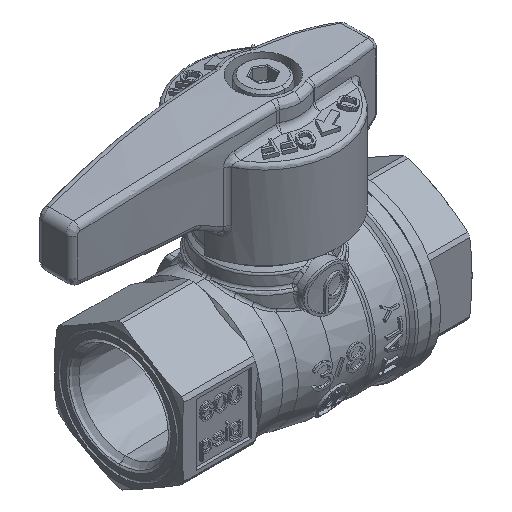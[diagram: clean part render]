
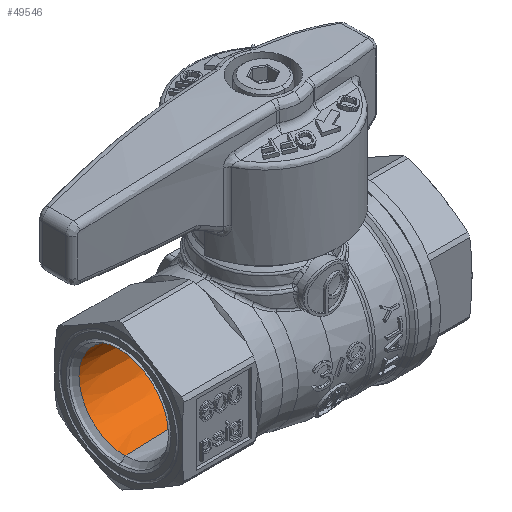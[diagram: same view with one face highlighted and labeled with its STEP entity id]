
A CAD part, isometric view. The second image highlights one B-rep face of the part: STEP entity #49546.
In plain terms, the highlighted conical face has half-angle 1.843 degrees and reference radius 0.287 mm.
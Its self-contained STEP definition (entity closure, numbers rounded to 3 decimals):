
#49371 = CONICAL_SURFACE('',#49372,0.258,1.309);
#49372 = AXIS2_PLACEMENT_3D('',#49373,#49374,#49375);
#49373 = CARTESIAN_POINT('',(22.243,-0.408,-10.35));
#49374 = DIRECTION('',(-1.,0.,0.));
#49375 = DIRECTION('',(0.,0.,1.));
#49441 = VERTEX_POINT('',#49442);
#49442 = CARTESIAN_POINT('',(22.237,-0.408,-10.63));
#49465 = VERTEX_POINT('',#49466);
#49466 = CARTESIAN_POINT('',(22.237,-0.408,-10.07));
#49502 = CONICAL_SURFACE('',#49503,0.287,0.032);
#49503 = AXIS2_PLACEMENT_3D('',#49504,#49505,#49506);
#49504 = CARTESIAN_POINT('',(22.011,-0.408,-10.35));
#49505 = DIRECTION('',(-1.,0.,0.));
#49506 = DIRECTION('',(0.,0.,1.));
#49519 = EDGE_CURVE('',#49441,#49465,#49520,.T.);
#49520 = SURFACE_CURVE('',#49521,(#49526,#49533),.PCURVE_S1.);
#49521 = CIRCLE('',#49522,0.28);
#49522 = AXIS2_PLACEMENT_3D('',#49523,#49524,#49525);
#49523 = CARTESIAN_POINT('',(22.237,-0.408,-10.35));
#49524 = DIRECTION('',(1.,0.,0.));
#49525 = DIRECTION('',(0.,0.,-1.));
#49526 = PCURVE('',#49371,#49527);
#49527 = DEFINITIONAL_REPRESENTATION('',(#49528),#49532);
#49528 = LINE('',#49529,#49530);
#49529 = CARTESIAN_POINT('',(3.142,0.006));
#49530 = VECTOR('',#49531,1.);
#49531 = DIRECTION('',(-1.,0.));
#49532 = ( GEOMETRIC_REPRESENTATION_CONTEXT(2) 
PARAMETRIC_REPRESENTATION_CONTEXT() REPRESENTATION_CONTEXT('2D SPACE',''
  ) );
#49533 = PCURVE('',#49534,#49539);
#49534 = CONICAL_SURFACE('',#49535,0.287,0.032);
#49535 = AXIS2_PLACEMENT_3D('',#49536,#49537,#49538);
#49536 = CARTESIAN_POINT('',(22.011,-0.408,-10.35));
#49537 = DIRECTION('',(-1.,0.,0.));
#49538 = DIRECTION('',(0.,0.,1.));
#49539 = DEFINITIONAL_REPRESENTATION('',(#49540),#49544);
#49540 = LINE('',#49541,#49542);
#49541 = CARTESIAN_POINT('',(3.142,-0.226));
#49542 = VECTOR('',#49543,1.);
#49543 = DIRECTION('',(-1.,0.));
#49544 = ( GEOMETRIC_REPRESENTATION_CONTEXT(2) 
PARAMETRIC_REPRESENTATION_CONTEXT() REPRESENTATION_CONTEXT('2D SPACE',''
  ) );
#49546 = ADVANCED_FACE('',(#49547),#49534,.F.);
#49547 = FACE_BOUND('',#49548,.T.);
#49548 = EDGE_LOOP('',(#49549,#49550,#49573,#49602));
#49549 = ORIENTED_EDGE('',*,*,#49519,.T.);
#49550 = ORIENTED_EDGE('',*,*,#49551,.F.);
#49551 = EDGE_CURVE('',#49552,#49465,#49554,.T.);
#49552 = VERTEX_POINT('',#49553);
#49553 = CARTESIAN_POINT('',(21.785,-0.408,-10.055));
#49554 = SURFACE_CURVE('',#49555,(#49559,#49566),.PCURVE_S1.);
#49555 = LINE('',#49556,#49557);
#49556 = CARTESIAN_POINT('',(21.785,-0.408,-10.055));
#49557 = VECTOR('',#49558,1.);
#49558 = DIRECTION('',(0.999,0.,-0.032));
#49559 = PCURVE('',#49534,#49560);
#49560 = DEFINITIONAL_REPRESENTATION('',(#49561),#49565);
#49561 = LINE('',#49562,#49563);
#49562 = CARTESIAN_POINT('',(0.,0.226));
#49563 = VECTOR('',#49564,1.);
#49564 = DIRECTION('',(0.,-1.));
#49565 = ( GEOMETRIC_REPRESENTATION_CONTEXT(2) 
PARAMETRIC_REPRESENTATION_CONTEXT() REPRESENTATION_CONTEXT('2D SPACE',''
  ) );
#49566 = PCURVE('',#49502,#49567);
#49567 = DEFINITIONAL_REPRESENTATION('',(#49568),#49572);
#49568 = LINE('',#49569,#49570);
#49569 = CARTESIAN_POINT('',(6.283,0.226));
#49570 = VECTOR('',#49571,1.);
#49571 = DIRECTION('',(0.,-1.));
#49572 = ( GEOMETRIC_REPRESENTATION_CONTEXT(2) 
PARAMETRIC_REPRESENTATION_CONTEXT() REPRESENTATION_CONTEXT('2D SPACE',''
  ) );
#49573 = ORIENTED_EDGE('',*,*,#49574,.F.);
#49574 = EDGE_CURVE('',#49575,#49552,#49577,.T.);
#49575 = VERTEX_POINT('',#49576);
#49576 = CARTESIAN_POINT('',(21.785,-0.408,-10.645));
#49577 = SURFACE_CURVE('',#49578,(#49583,#49590),.PCURVE_S1.);
#49578 = CIRCLE('',#49579,0.295);
#49579 = AXIS2_PLACEMENT_3D('',#49580,#49581,#49582);
#49580 = CARTESIAN_POINT('',(21.785,-0.408,-10.35));
#49581 = DIRECTION('',(1.,0.,0.));
#49582 = DIRECTION('',(0.,0.,-1.));
#49583 = PCURVE('',#49534,#49584);
#49584 = DEFINITIONAL_REPRESENTATION('',(#49585),#49589);
#49585 = LINE('',#49586,#49587);
#49586 = CARTESIAN_POINT('',(3.142,0.226));
#49587 = VECTOR('',#49588,1.);
#49588 = DIRECTION('',(-1.,0.));
#49589 = ( GEOMETRIC_REPRESENTATION_CONTEXT(2) 
PARAMETRIC_REPRESENTATION_CONTEXT() REPRESENTATION_CONTEXT('2D SPACE',''
  ) );
#49590 = PCURVE('',#49591,#49596);
#49591 = CONICAL_SURFACE('',#49592,0.315,0.785);
#49592 = AXIS2_PLACEMENT_3D('',#49593,#49594,#49595);
#49593 = CARTESIAN_POINT('',(21.765,-0.408,-10.35));
#49594 = DIRECTION('',(-1.,0.,0.));
#49595 = DIRECTION('',(0.,0.,1.));
#49596 = DEFINITIONAL_REPRESENTATION('',(#49597),#49601);
#49597 = LINE('',#49598,#49599);
#49598 = CARTESIAN_POINT('',(3.142,-0.02));
#49599 = VECTOR('',#49600,1.);
#49600 = DIRECTION('',(-1.,0.));
#49601 = ( GEOMETRIC_REPRESENTATION_CONTEXT(2) 
PARAMETRIC_REPRESENTATION_CONTEXT() REPRESENTATION_CONTEXT('2D SPACE',''
  ) );
#49602 = ORIENTED_EDGE('',*,*,#49603,.T.);
#49603 = EDGE_CURVE('',#49575,#49441,#49604,.T.);
#49604 = SURFACE_CURVE('',#49605,(#49609,#49616),.PCURVE_S1.);
#49605 = LINE('',#49606,#49607);
#49606 = CARTESIAN_POINT('',(21.785,-0.408,-10.645));
#49607 = VECTOR('',#49608,1.);
#49608 = DIRECTION('',(0.999,0.,0.032));
#49609 = PCURVE('',#49534,#49610);
#49610 = DEFINITIONAL_REPRESENTATION('',(#49611),#49615);
#49611 = LINE('',#49612,#49613);
#49612 = CARTESIAN_POINT('',(3.142,0.226));
#49613 = VECTOR('',#49614,1.);
#49614 = DIRECTION('',(0.,-1.));
#49615 = ( GEOMETRIC_REPRESENTATION_CONTEXT(2) 
PARAMETRIC_REPRESENTATION_CONTEXT() REPRESENTATION_CONTEXT('2D SPACE',''
  ) );
#49616 = PCURVE('',#49502,#49617);
#49617 = DEFINITIONAL_REPRESENTATION('',(#49618),#49622);
#49618 = LINE('',#49619,#49620);
#49619 = CARTESIAN_POINT('',(3.142,0.226));
#49620 = VECTOR('',#49621,1.);
#49621 = DIRECTION('',(0.,-1.));
#49622 = ( GEOMETRIC_REPRESENTATION_CONTEXT(2) 
PARAMETRIC_REPRESENTATION_CONTEXT() REPRESENTATION_CONTEXT('2D SPACE',''
  ) );
